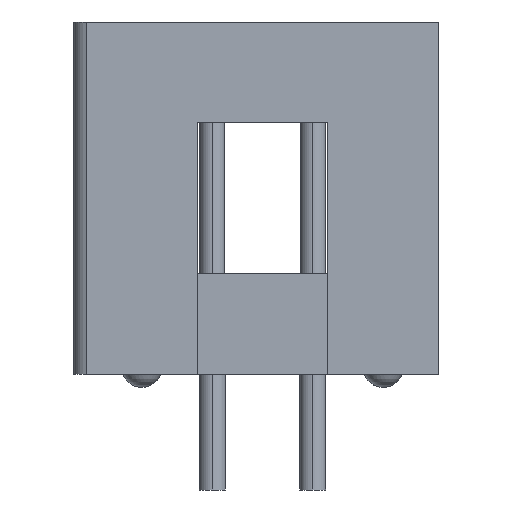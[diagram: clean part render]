
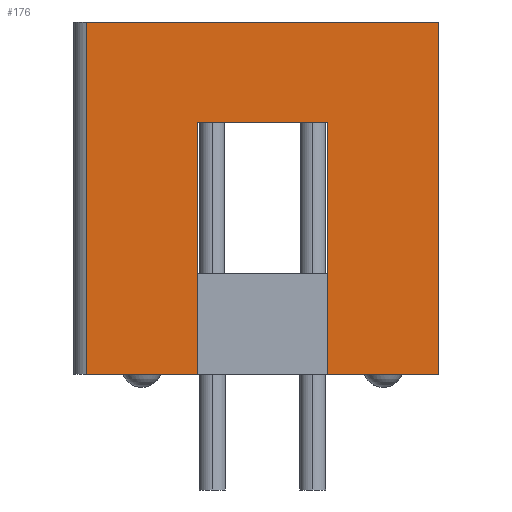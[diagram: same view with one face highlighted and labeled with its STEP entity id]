
A CAD part, left-side view. The second image highlights one B-rep face of the part: STEP entity #176.
In plain terms, the highlighted planar face has unit normal (-1, 0, 0).
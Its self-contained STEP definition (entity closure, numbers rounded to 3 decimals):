
#176=ADVANCED_FACE('',(#563),#564,.T.);
#563=FACE_OUTER_BOUND('',#1070,.T.);
#564=PLANE('',#1071);
#1070=EDGE_LOOP('',(#2308,#2309,#2310,#2311,#2312,#2313,#2314,#2315));
#1071=AXIS2_PLACEMENT_3D('',#2316,#2317,#2318);
#2308=ORIENTED_EDGE('',*,*,#3439,.F.);
#2309=ORIENTED_EDGE('',*,*,#3440,.F.);
#2310=ORIENTED_EDGE('',*,*,#3333,.F.);
#2311=ORIENTED_EDGE('',*,*,#3432,.F.);
#2312=ORIENTED_EDGE('',*,*,#3261,.T.);
#2313=ORIENTED_EDGE('',*,*,#3441,.T.);
#2314=ORIENTED_EDGE('',*,*,#3337,.F.);
#2315=ORIENTED_EDGE('',*,*,#3442,.T.);
#2316=CARTESIAN_POINT('',(-19.05,-4.445,0.0));
#2317=DIRECTION('',(-1.0,0.0,0.0));
#2318=DIRECTION('',(0.0,0.0,1.0));
#3261=EDGE_CURVE('',#4023,#4021,#4024,.T.);
#3333=EDGE_CURVE('',#4150,#4152,#4153,.T.);
#3337=EDGE_CURVE('',#4158,#4160,#4161,.T.);
#3432=EDGE_CURVE('',#4023,#4150,#4285,.T.);
#3439=EDGE_CURVE('',#4296,#4297,#4298,.T.);
#3440=EDGE_CURVE('',#4152,#4296,#4299,.T.);
#3441=EDGE_CURVE('',#4021,#4160,#4300,.T.);
#3442=EDGE_CURVE('',#4158,#4297,#4301,.T.);
#4021=VERTEX_POINT('',#5018);
#4023=VERTEX_POINT('',#5021);
#4024=LINE('',#5022,#5023);
#4150=VERTEX_POINT('',#5216);
#4152=VERTEX_POINT('',#5219);
#4153=LINE('',#5220,#5221);
#4158=VERTEX_POINT('',#5228);
#4160=VERTEX_POINT('',#5231);
#4161=LINE('',#5232,#5233);
#4285=LINE('',#5395,#5396);
#4296=VERTEX_POINT('',#5413);
#4297=VERTEX_POINT('',#5414);
#4298=LINE('',#5415,#5416);
#4299=LINE('',#5417,#5418);
#4300=LINE('',#5419,#5420);
#4301=LINE('',#5421,#5422);
#5018=CARTESIAN_POINT('',(-19.05,4.445,0.0));
#5021=CARTESIAN_POINT('',(-19.05,-4.445,0.0));
#5022=CARTESIAN_POINT('',(-19.05,-4.445,0.0));
#5023=VECTOR('',#6105,8.89);
#5216=CARTESIAN_POINT('',(-19.05,-4.445,-8.89));
#5219=CARTESIAN_POINT('',(-19.05,-1.651,-8.89));
#5220=CARTESIAN_POINT('',(-19.05,-4.445,-8.89));
#5221=VECTOR('',#6183,2.794);
#5228=CARTESIAN_POINT('',(-19.05,1.651,-8.89));
#5231=CARTESIAN_POINT('',(-19.05,4.445,-8.89));
#5232=CARTESIAN_POINT('',(-19.05,1.651,-8.89));
#5233=VECTOR('',#6187,2.794);
#5395=CARTESIAN_POINT('',(-19.05,-4.445,0.0));
#5396=VECTOR('',#6394,8.89);
#5413=CARTESIAN_POINT('',(-19.05,-1.651,-2.54));
#5414=CARTESIAN_POINT('',(-19.05,1.651,-2.54));
#5415=CARTESIAN_POINT('',(-19.05,-1.651,-2.54));
#5416=VECTOR('',#6401,3.302);
#5417=CARTESIAN_POINT('',(-19.05,-1.651,-8.89));
#5418=VECTOR('',#6402,6.35);
#5419=CARTESIAN_POINT('',(-19.05,4.445,0.0));
#5420=VECTOR('',#6403,8.89);
#5421=CARTESIAN_POINT('',(-19.05,1.651,-8.89));
#5422=VECTOR('',#6404,6.35);
#6105=DIRECTION('',(0.0,1.0,0.0));
#6183=DIRECTION('',(0.0,1.0,0.0));
#6187=DIRECTION('',(0.0,1.0,0.0));
#6394=DIRECTION('',(0.0,0.0,-1.0));
#6401=DIRECTION('',(0.0,1.0,0.0));
#6402=DIRECTION('',(0.0,0.0,1.0));
#6403=DIRECTION('',(0.0,0.0,-1.0));
#6404=DIRECTION('',(0.0,0.0,1.0));
